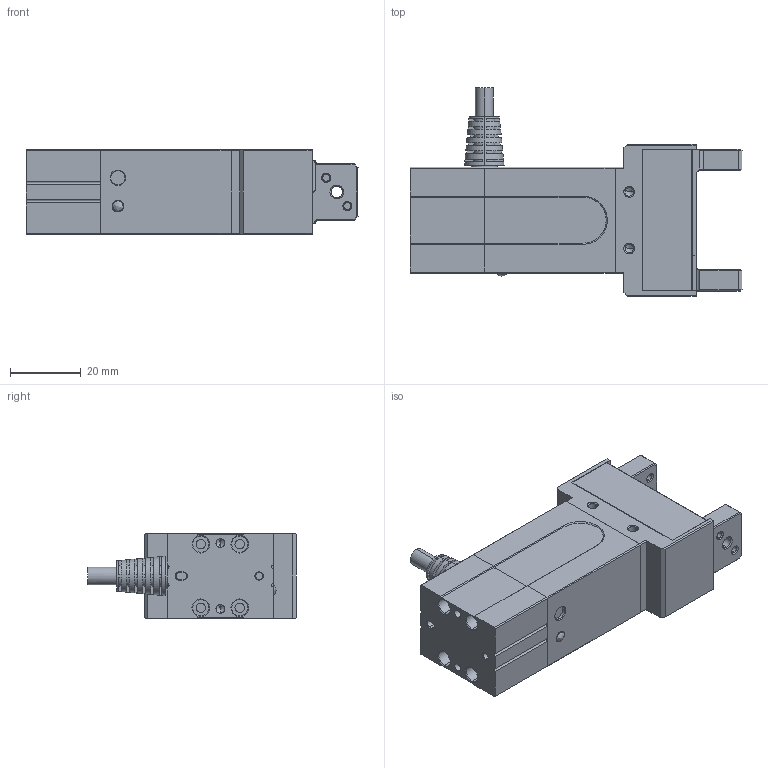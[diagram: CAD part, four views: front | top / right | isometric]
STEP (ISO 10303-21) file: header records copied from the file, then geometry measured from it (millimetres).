
FILE_DESCRIPTION (( 'STEP AP203' ), '1' );
FILE_NAME ('EFG-20S.STEP', '2021-05-31T11:09:29', ( '' ), ( '' ), 'SwSTEP 2.0', 'SolidWorks 2018', '' );
FILE_SCHEMA (( 'CONFIG_CONTROL_DESIGN' ));
Length unit declared in the file: millimetre
Products named in the file (1): EFG-20S
Bounding box: 93.9 x 59 x 24 mm (x, y, z)
Volume: 61548.6 mm3; surface area: 19576 mm2
Topology: 2 solids, 12 shells, 664 faces, 1707 edges, 1101 vertices
Faces by surface type: plane 378, cylinder 149, cone 134, bspline 3
Entity records: 21440 total; most frequent: CARTESIAN_POINT 5480, ORIENTED_EDGE 3374, DIRECTION 3151, EDGE_CURVE 1687, VERTEX_POINT 1101, AXIS2_PLACEMENT_3D 1083, VECTOR 985, LINE 985
